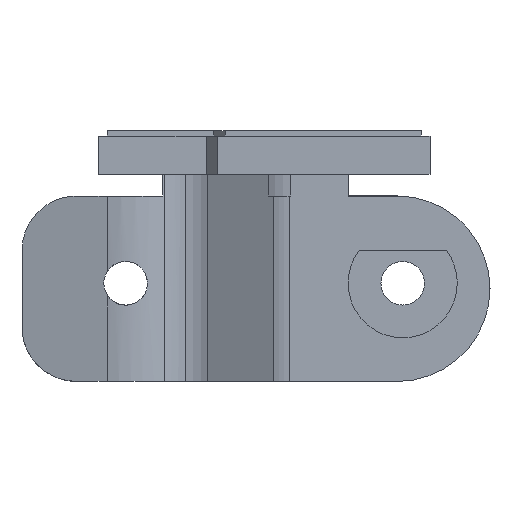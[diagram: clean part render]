
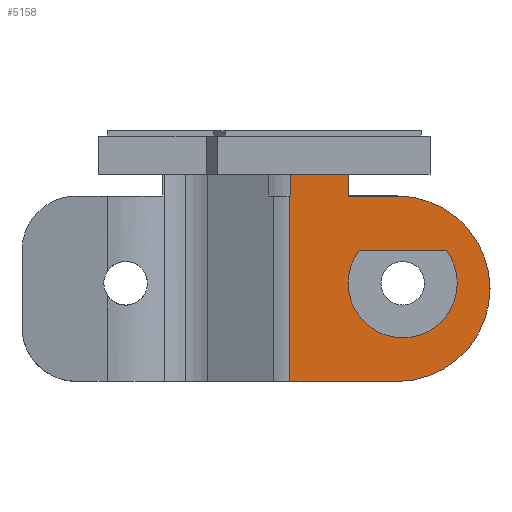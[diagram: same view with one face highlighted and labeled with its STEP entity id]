
A CAD part, left-side view. The second image highlights one B-rep face of the part: STEP entity #5158.
In plain terms, the highlighted planar face has unit normal (-1, 0, 0).
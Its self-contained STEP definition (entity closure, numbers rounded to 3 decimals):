
#514 = CARTESIAN_POINT ( 'NONE',  ( 198.1, 73.9, -6.3 ) ) ;
#546 = DIRECTION ( 'NONE',  ( 0., 1., 0. ) ) ;
#547 = VECTOR ( 'NONE', #546, 1000. ) ;
#554 = LINE ( 'NONE', #514, #547 ) ;
#555 = CARTESIAN_POINT ( 'NONE',  ( 198.1, 92.215, -1.3 ) ) ;
#565 = DIRECTION ( 'NONE',  ( 0., 1., 0. ) ) ;
#566 = DIRECTION ( 'NONE',  ( -1., 0., 0. ) ) ;
#567 = CARTESIAN_POINT ( 'NONE',  ( 198.1, 81.9, -9.3 ) ) ;
#571 = CIRCLE ( 'NONE', #582, 5. ) ;
#575 = DIRECTION ( 'NONE',  ( 0., -1., 0. ) ) ;
#576 = VECTOR ( 'NONE', #575, 1000. ) ;
#577 = CARTESIAN_POINT ( 'NONE',  ( 198.1, 73.9, -1.3 ) ) ;
#579 = CARTESIAN_POINT ( 'NONE',  ( 198.1, 92.316, -1.3 ) ) ;
#580 = LINE ( 'NONE', #577, #576 ) ;
#582 = AXIS2_PLACEMENT_3D ( 'NONE', #567, #566, #565 ) ;
#583 = CARTESIAN_POINT ( 'NONE',  ( 198.1, 85.9, -6.3 ) ) ;
#984 = EDGE_CURVE ( 'NONE', #6149, #5948, #1091, .T. ) ;
#999 = VERTEX_POINT ( 'NONE', #1182 ) ;
#1086 = DIRECTION ( 'NONE',  ( 0., 0., 1. ) ) ;
#1087 = VECTOR ( 'NONE', #1086, 1000. ) ;
#1089 = CARTESIAN_POINT ( 'NONE',  ( 198.1, 92.316, -18.3 ) ) ;
#1091 = LINE ( 'NONE', #1089, #1087 ) ;
#1177 = DIRECTION ( 'NONE',  ( 0., 1., 0. ) ) ;
#1178 = VECTOR ( 'NONE', #1177, 1000. ) ;
#1180 = CARTESIAN_POINT ( 'NONE',  ( 198.1, 73.9, -18.3 ) ) ;
#1182 = CARTESIAN_POINT ( 'NONE',  ( 198.1, 86.9, -1.3 ) ) ;
#1217 = LINE ( 'NONE', #1180, #1178 ) ;
#1219 = CARTESIAN_POINT ( 'NONE',  ( 198.1, 92.316, -18.3 ) ) ;
#1545 = DIRECTION ( 'NONE',  ( 0., -1., 0. ) ) ;
#1546 = VECTOR ( 'NONE', #1545, 1000. ) ;
#1547 = CARTESIAN_POINT ( 'NONE',  ( 198.1, 73.9, -1.3 ) ) ;
#1548 = LINE ( 'NONE', #1547, #1546 ) ;
#1565 = AXIS2_PLACEMENT_3D ( 'NONE', #1611, #1606, #1605 ) ;
#1566 = CIRCLE ( 'NONE', #1565, 8.5 ) ;
#1582 = CARTESIAN_POINT ( 'NONE',  ( 198.1, 82.4, -1.3 ) ) ;
#1605 = DIRECTION ( 'NONE',  ( 0., -1., 0. ) ) ;
#1606 = DIRECTION ( 'NONE',  ( 1., 0., 0. ) ) ;
#1611 = CARTESIAN_POINT ( 'NONE',  ( 198.1, 82.4, -9.8 ) ) ;
#1726 = CIRCLE ( 'NONE', #1759, 5. ) ;
#1733 = CARTESIAN_POINT ( 'NONE',  ( 198.1, 86.9, -9.3 ) ) ;
#1736 = AXIS2_PLACEMENT_3D ( 'NONE', #1743, #1748, #1738 ) ;
#1738 = DIRECTION ( 'NONE',  ( 0., 1., 0. ) ) ;
#1743 = CARTESIAN_POINT ( 'NONE',  ( 198.1, 81.9, -9.3 ) ) ;
#1748 = DIRECTION ( 'NONE',  ( -1., 0., 0. ) ) ;
#1749 = DIRECTION ( 'NONE',  ( 0., 1., 0. ) ) ;
#1751 = CARTESIAN_POINT ( 'NONE',  ( 198.1, 81.9, -9.3 ) ) ;
#1755 = DIRECTION ( 'NONE',  ( -1., 0., 0. ) ) ;
#1759 = AXIS2_PLACEMENT_3D ( 'NONE', #1751, #1755, #1749 ) ;
#1763 = CIRCLE ( 'NONE', #1736, 5. ) ;
#1979 = CARTESIAN_POINT ( 'NONE',  ( 198.1, 76.9, -9.3 ) ) ;
#1989 = CARTESIAN_POINT ( 'NONE',  ( 198.1, 77.9, -6.3 ) ) ;
#2023 = DIRECTION ( 'NONE',  ( 0., -1., 0. ) ) ;
#2024 = DIRECTION ( 'NONE',  ( 1., 0., 0. ) ) ;
#2025 = CARTESIAN_POINT ( 'NONE',  ( 198.1, 82.4, -9.8 ) ) ;
#2026 = AXIS2_PLACEMENT_3D ( 'NONE', #2025, #2024, #2023 ) ;
#2027 = CIRCLE ( 'NONE', #2026, 8.5 ) ;
#2183 = CARTESIAN_POINT ( 'NONE',  ( 198.1, 82.4, -18.3 ) ) ;
#2245 = CARTESIAN_POINT ( 'NONE',  ( 198.1, 73.9, -9.8 ) ) ;
#2428 = PLANE ( 'NONE',  #2434 ) ;
#2431 = DIRECTION ( 'NONE',  ( 0., 1., 0. ) ) ;
#2432 = DIRECTION ( 'NONE',  ( 1., 0., 0. ) ) ;
#2433 = CARTESIAN_POINT ( 'NONE',  ( 198.1, 73.9, -18.3 ) ) ;
#2434 = AXIS2_PLACEMENT_3D ( 'NONE', #2433, #2432, #2431 ) ;
#2722 = CARTESIAN_POINT ( 'NONE',  ( 198.1, 92.215, 0.7 ) ) ;
#2882 = DIRECTION ( 'NONE',  ( 0., 1., 0. ) ) ;
#2883 = VECTOR ( 'NONE', #2882, 1000. ) ;
#2892 = CARTESIAN_POINT ( 'NONE',  ( 198.1, 108.8, 0.7 ) ) ;
#2893 = LINE ( 'NONE', #2892, #2883 ) ;
#2911 = DIRECTION ( 'NONE',  ( 0., 0., 1. ) ) ;
#2912 = VECTOR ( 'NONE', #2911, 1000. ) ;
#2913 = CARTESIAN_POINT ( 'NONE',  ( 198.1, 92.215, 0.7 ) ) ;
#2919 = LINE ( 'NONE', #2913, #2912 ) ;
#3028 = CARTESIAN_POINT ( 'NONE',  ( 198.1, 86.9, 0.7 ) ) ;
#3051 = LINE ( 'NONE', #3093, #3092 ) ;
#3084 = FACE_OUTER_BOUND ( 'NONE', #4738, .T. ) ;
#3090 = FACE_BOUND ( 'NONE', #5143, .T. ) ;
#3091 = DIRECTION ( 'NONE',  ( 0., 0., -1. ) ) ;
#3092 = VECTOR ( 'NONE', #3091, 1000. ) ;
#3093 = CARTESIAN_POINT ( 'NONE',  ( 198.1, 86.9, -18.3 ) ) ;
#3708 = EDGE_CURVE ( 'NONE', #999, #3954, #1548, .T. ) ;
#3954 = VERTEX_POINT ( 'NONE', #1582 ) ;
#4542 = EDGE_CURVE ( 'NONE', #3954, #4841, #1566, .T. ) ;
#4618 = VERTEX_POINT ( 'NONE', #1733 ) ;
#4631 = EDGE_CURVE ( 'NONE', #4618, #4726, #1726, .T. ) ;
#4681 = ORIENTED_EDGE ( 'NONE', *, *, #5953, .F. ) ;
#4718 = ORIENTED_EDGE ( 'NONE', *, *, #5939, .F. ) ;
#4719 = VERTEX_POINT ( 'NONE', #1989 ) ;
#4726 = VERTEX_POINT ( 'NONE', #1979 ) ;
#4730 = EDGE_CURVE ( 'NONE', #4726, #4719, #1763, .T. ) ;
#4731 = EDGE_CURVE ( 'NONE', #4841, #4821, #2027, .T. ) ;
#4738 = EDGE_LOOP ( 'NONE', ( #5157, #5041, #5056, #5094, #5105, #5106, #5119, #5103, #5122 ) ) ;
#4807 = ORIENTED_EDGE ( 'NONE', *, *, #4730, .F. ) ;
#4821 = VERTEX_POINT ( 'NONE', #2183 ) ;
#4841 = VERTEX_POINT ( 'NONE', #2245 ) ;
#4993 = ORIENTED_EDGE ( 'NONE', *, *, #4631, .F. ) ;
#5012 = VERTEX_POINT ( 'NONE', #2722 ) ;
#5041 = ORIENTED_EDGE ( 'NONE', *, *, #5074, .T. ) ;
#5056 = ORIENTED_EDGE ( 'NONE', *, *, #5081, .F. ) ;
#5074 = EDGE_CURVE ( 'NONE', #5145, #5012, #2893, .T. ) ;
#5081 = EDGE_CURVE ( 'NONE', #5955, #5012, #2919, .T. ) ;
#5094 = ORIENTED_EDGE ( 'NONE', *, *, #5947, .F. ) ;
#5103 = ORIENTED_EDGE ( 'NONE', *, *, #4542, .F. ) ;
#5105 = ORIENTED_EDGE ( 'NONE', *, *, #984, .F. ) ;
#5106 = ORIENTED_EDGE ( 'NONE', *, *, #6150, .F. ) ;
#5119 = ORIENTED_EDGE ( 'NONE', *, *, #4731, .F. ) ;
#5122 = ORIENTED_EDGE ( 'NONE', *, *, #3708, .F. ) ;
#5143 = EDGE_LOOP ( 'NONE', ( #4718, #4807, #4993, #4681 ) ) ;
#5145 = VERTEX_POINT ( 'NONE', #3028 ) ;
#5154 = EDGE_CURVE ( 'NONE', #5145, #999, #3051, .T. ) ;
#5157 = ORIENTED_EDGE ( 'NONE', *, *, #5154, .F. ) ;
#5158 = ADVANCED_FACE ( 'NONE', ( #3090, #3084 ), #2428, .F. ) ;
#5939 = EDGE_CURVE ( 'NONE', #4719, #5945, #554, .T. ) ;
#5945 = VERTEX_POINT ( 'NONE', #583 ) ;
#5947 = EDGE_CURVE ( 'NONE', #5948, #5955, #580, .T. ) ;
#5948 = VERTEX_POINT ( 'NONE', #579 ) ;
#5953 = EDGE_CURVE ( 'NONE', #5945, #4618, #571, .T. ) ;
#5955 = VERTEX_POINT ( 'NONE', #555 ) ;
#6149 = VERTEX_POINT ( 'NONE', #1219 ) ;
#6150 = EDGE_CURVE ( 'NONE', #4821, #6149, #1217, .T. ) ;
